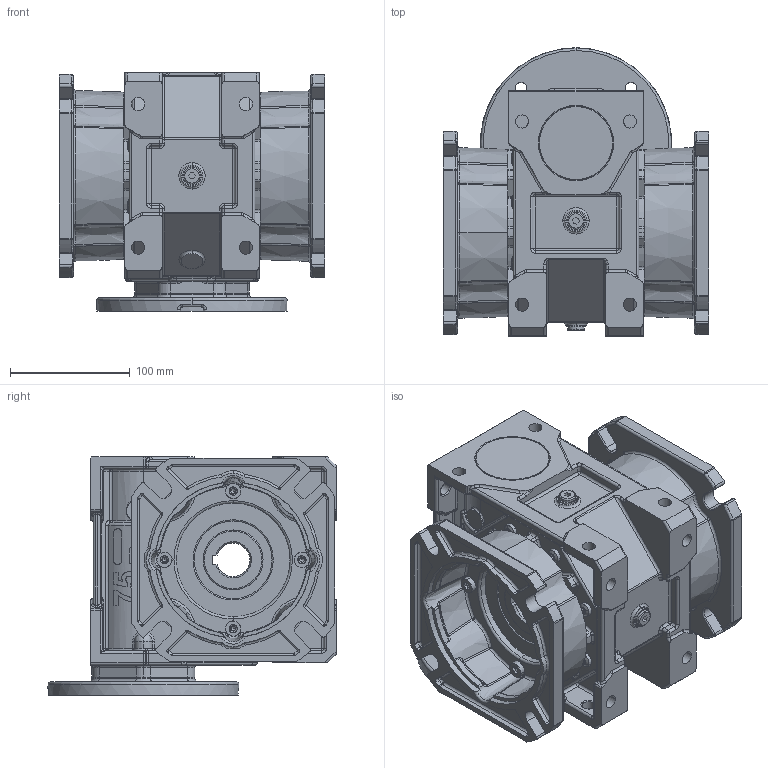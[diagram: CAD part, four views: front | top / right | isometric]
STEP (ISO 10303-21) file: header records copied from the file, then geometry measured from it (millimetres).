
FILE_DESCRIPTION (( 'STEP AP214' ), '1' );
FILE_NAME ('MKT75-FFRL-100-130.STEP', '2006-05-10T05:53:21', ( '' ), ( '' ), 'SwSTEP 2.0', 'SolidWorks 2004146', '' );
FILE_SCHEMA (( 'AUTOMOTIVE_DESIGN' ));
Length unit declared in the file: millimetre
Products named in the file (6): D6912_Šroub DIN 6912 - M8x25; D6912_Šroub DIN 6912 - M6x25; Pøíruba FF MKT 75_Výchozí; pøíruba130 d72 MRT80a_Výchozí; Skrin MKT75_MKT 75 AP100; MKT75-FFRL-100-130
Assembly tree (18 placements, depth 2):
  MKT75-FFRL-100-130
    D6912_Šroub DIN 6912 - M8x25  x8
    D6912_Šroub DIN 6912 - M6x25  x6
    Pøíruba FF MKT 75_Výchozí  x2
    pøíruba130 d72 MRT80a_Výchozí
    Skrin MKT75_MKT 75 AP100
Bounding box: 222 x 240.81 x 199 mm (x, y, z)
Volume: 3833684.9 mm3; surface area: 485417.3 mm2
Topology: 18 solids, 18 shells, 3757 faces, 8744 edges, 4890 vertices
Faces by surface type: cylinder 1306, torus 691, plane 681, bspline 413, sphere 353, cone 313
Entity records: 237338 total; most frequent: CARTESIAN_POINT 171217, DIRECTION 14012, ORIENTED_EDGE 12690, EDGE_CURVE 6345, AXIS2_PLACEMENT_3D 5969, VERTEX_POINT 3724, CIRCLE 3511, EDGE_LOOP 2915
